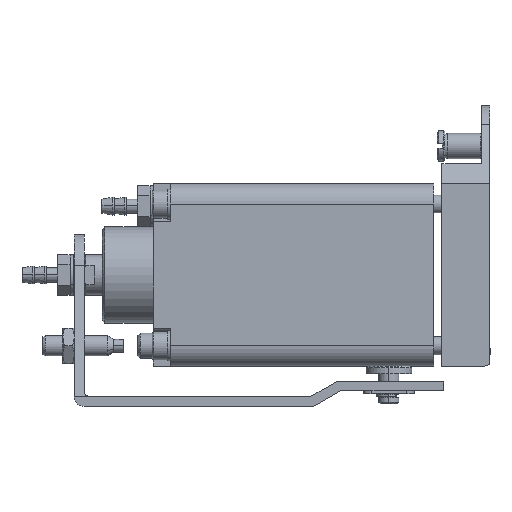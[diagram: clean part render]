
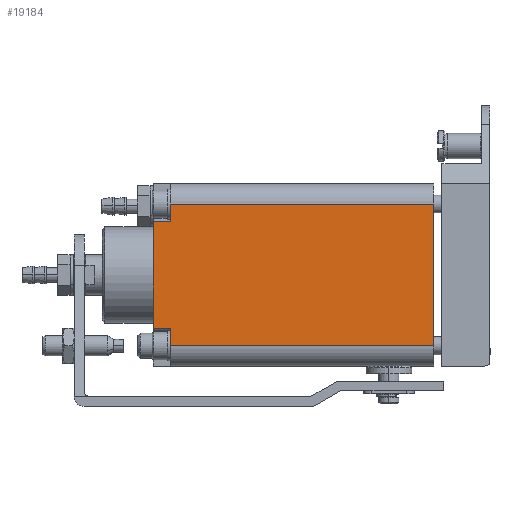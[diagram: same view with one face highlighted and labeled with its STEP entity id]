
A CAD part, left-side view. The second image highlights one B-rep face of the part: STEP entity #19184.
In plain terms, the highlighted planar face has unit normal (-1, 0, 0).
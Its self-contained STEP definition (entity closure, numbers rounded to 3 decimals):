
#91 = FACE_OUTER_BOUND ( 'NONE', #35073, .T. ) ;
#532 = EDGE_CURVE ( 'NONE', #16594, #11714, #16899, .T. ) ;
#1161 = DIRECTION ( 'NONE',  ( 0., 0., -1. ) ) ;
#1274 = ORIENTED_EDGE ( 'NONE', *, *, #38079, .F. ) ;
#1613 = CARTESIAN_POINT ( 'NONE',  ( -14., 50.5, -10.5 ) ) ;
#2403 = LINE ( 'NONE', #7257, #17729 ) ;
#2635 = VERTEX_POINT ( 'NONE', #28643 ) ;
#4346 = CARTESIAN_POINT ( 'NONE',  ( -14., 50.5, 10.5 ) ) ;
#5440 = CARTESIAN_POINT ( 'NONE',  ( -14., 22.75, -14. ) ) ;
#5816 = VERTEX_POINT ( 'NONE', #23757 ) ;
#6333 = VECTOR ( 'NONE', #36068, 1000. ) ;
#7257 = CARTESIAN_POINT ( 'NONE',  ( -14., 52., 0. ) ) ;
#7336 = LINE ( 'NONE', #16913, #39114 ) ;
#7966 = CARTESIAN_POINT ( 'NONE',  ( -14., -4.55, -16.8 ) ) ;
#9216 = ORIENTED_EDGE ( 'NONE', *, *, #30182, .T. ) ;
#10629 = LINE ( 'NONE', #19416, #26928 ) ;
#10906 = VECTOR ( 'NONE', #35313, 1000. ) ;
#11066 = DIRECTION ( 'NONE',  ( 0., 0., 1. ) ) ;
#11247 = ORIENTED_EDGE ( 'NONE', *, *, #24311, .T. ) ;
#11456 = CARTESIAN_POINT ( 'NONE',  ( -14., 52., 0. ) ) ;
#11714 = VERTEX_POINT ( 'NONE', #23125 ) ;
#13794 = CARTESIAN_POINT ( 'NONE',  ( -14., 22.75, 14. ) ) ;
#14068 = VERTEX_POINT ( 'NONE', #36504 ) ;
#14531 = ORIENTED_EDGE ( 'NONE', *, *, #532, .T. ) ;
#14740 = LINE ( 'NONE', #1613, #31064 ) ;
#14943 = CARTESIAN_POINT ( 'NONE',  ( -14., 52., 14. ) ) ;
#15388 = CARTESIAN_POINT ( 'NONE',  ( -14., 52., -10.5 ) ) ;
#15453 = LINE ( 'NONE', #11456, #6333 ) ;
#16594 = VERTEX_POINT ( 'NONE', #35340 ) ;
#16899 = LINE ( 'NONE', #5440, #39539 ) ;
#16913 = CARTESIAN_POINT ( 'NONE',  ( -14., 0., 0. ) ) ;
#17729 = VECTOR ( 'NONE', #1161, 1000. ) ;
#19184 = ADVANCED_FACE ( 'NONE', ( #91 ), #35398, .T. ) ;
#19416 = CARTESIAN_POINT ( 'NONE',  ( -14., 55.5, 0. ) ) ;
#20741 = DIRECTION ( 'NONE',  ( 0., -1., 0. ) ) ;
#22814 = AXIS2_PLACEMENT_3D ( 'NONE', #7966, #29457, #11066 ) ;
#23125 = CARTESIAN_POINT ( 'NONE',  ( -14., 0., -14. ) ) ;
#23757 = CARTESIAN_POINT ( 'NONE',  ( -14., 55.5, -10.5 ) ) ;
#24052 = ORIENTED_EDGE ( 'NONE', *, *, #37564, .T. ) ;
#24281 = ORIENTED_EDGE ( 'NONE', *, *, #33906, .T. ) ;
#24311 = EDGE_CURVE ( 'NONE', #11714, #14068, #7336, .T. ) ;
#25454 = DIRECTION ( 'NONE',  ( 0., 0., -1. ) ) ;
#26123 = VECTOR ( 'NONE', #37781, 1000. ) ;
#26928 = VECTOR ( 'NONE', #25454, 1000. ) ;
#27093 = LINE ( 'NONE', #4346, #26123 ) ;
#27230 = LINE ( 'NONE', #13794, #10906 ) ;
#28584 = VERTEX_POINT ( 'NONE', #14943 ) ;
#28643 = CARTESIAN_POINT ( 'NONE',  ( -14., 55.5, 10.5 ) ) ;
#28920 = CARTESIAN_POINT ( 'NONE',  ( -14., 52., 10.5 ) ) ;
#29097 = DIRECTION ( 'NONE',  ( 0., -1., 0. ) ) ;
#29219 = ORIENTED_EDGE ( 'NONE', *, *, #34800, .T. ) ;
#29279 = DIRECTION ( 'NONE',  ( 0., 0., 1. ) ) ;
#29457 = DIRECTION ( 'NONE',  ( -1., 0., 0. ) ) ;
#30182 = EDGE_CURVE ( 'NONE', #2635, #5816, #10629, .T. ) ;
#31064 = VECTOR ( 'NONE', #29097, 1000. ) ;
#33906 = EDGE_CURVE ( 'NONE', #5816, #35101, #14740, .T. ) ;
#34218 = ORIENTED_EDGE ( 'NONE', *, *, #36414, .T. ) ;
#34432 = VERTEX_POINT ( 'NONE', #28920 ) ;
#34800 = EDGE_CURVE ( 'NONE', #34432, #2635, #27093, .T. ) ;
#35073 = EDGE_LOOP ( 'NONE', ( #11247, #1274, #34218, #29219, #9216, #24281, #24052, #14531 ) ) ;
#35101 = VERTEX_POINT ( 'NONE', #15388 ) ;
#35313 = DIRECTION ( 'NONE',  ( 0., -1., 0. ) ) ;
#35340 = CARTESIAN_POINT ( 'NONE',  ( -14., 52., -14. ) ) ;
#35398 = PLANE ( 'NONE',  #22814 ) ;
#36068 = DIRECTION ( 'NONE',  ( 0., 0., -1. ) ) ;
#36414 = EDGE_CURVE ( 'NONE', #28584, #34432, #15453, .T. ) ;
#36504 = CARTESIAN_POINT ( 'NONE',  ( -14., 0., 14. ) ) ;
#37564 = EDGE_CURVE ( 'NONE', #35101, #16594, #2403, .T. ) ;
#37781 = DIRECTION ( 'NONE',  ( 0., 1., 0. ) ) ;
#38079 = EDGE_CURVE ( 'NONE', #28584, #14068, #27230, .T. ) ;
#39114 = VECTOR ( 'NONE', #29279, 1000. ) ;
#39539 = VECTOR ( 'NONE', #20741, 1000. ) ;
